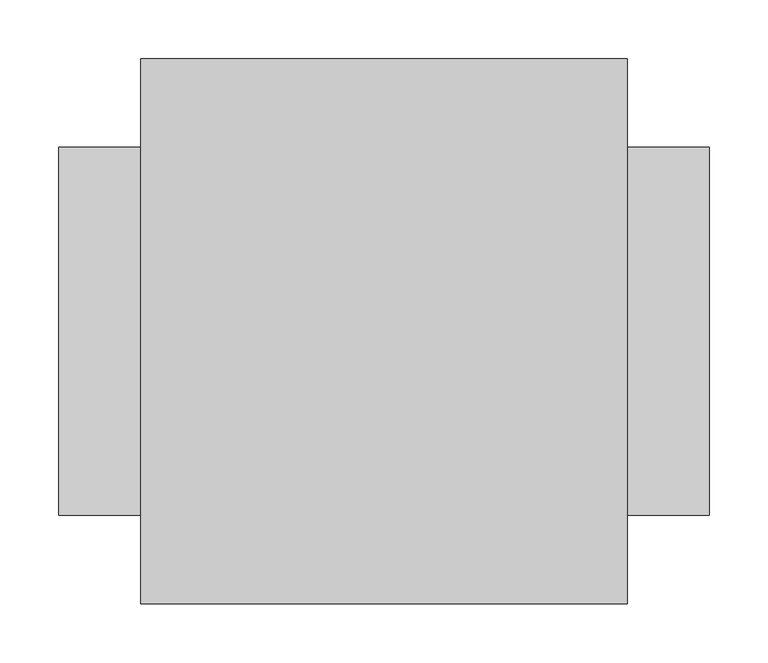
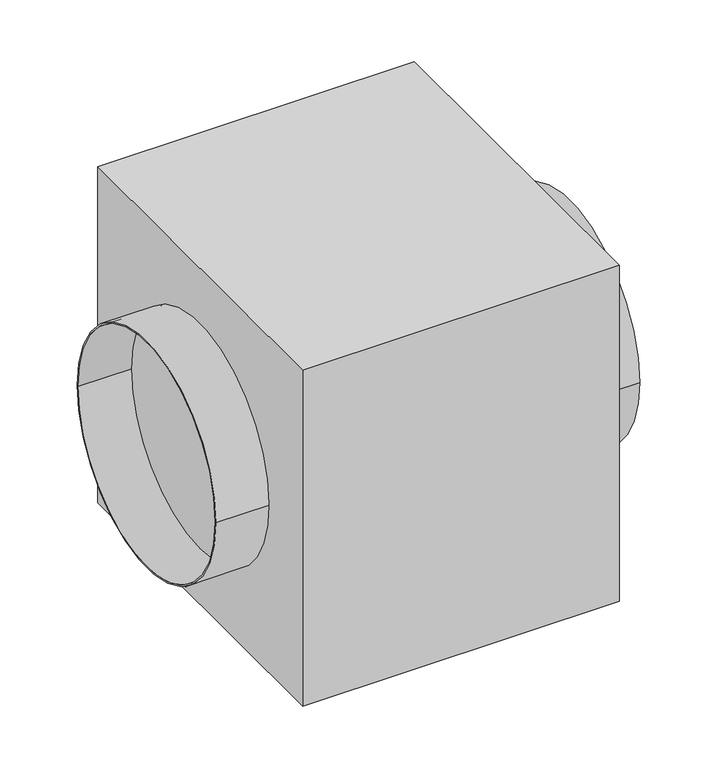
"""IFC4 building model written with IfcOpenShell, lengths in millimetres: proxy geometry, СВ_Вентилятор_КанальныйКруглый_DN100-315_SVK-SVKH : SVKH-315."""

import ifcopenshell
import ifcopenshell.guid

model = None  # the IFC model being written
_history = None  # IfcOwnerHistory: only IFC2X3 demands one
_inside = {}  # id of a spatial element -> (the spatial element, [elements in it])
_under = {}  # id of a project, library or spatial element -> (it, [spatial elements below it])
_declared = {}  # id of a project -> (the project, [libraries it declares])
_typed = {}  # id of a type object -> (the type object, [elements of that type])
_made_of = {}  # id of a material, layer set ... -> (it, [elements and type objects made of it])


def new_model(schema):
    """Start an empty IFC model of exactly this schema.

    Asked for "IFC4X3", IfcOpenShell would pick the latest addendum, in which some entities
    have other attributes; the version numbers below select the first issue.
    IFC2X3 requires an IfcOwnerHistory on every rooted entity: one is made here for all.
    """
    global model, _history
    if schema == "IFC4X3":
        model = ifcopenshell.file(schema_version=(4, 3, 0, 0))
    else:
        model = ifcopenshell.file(schema=schema)
    _inside.clear()
    _under.clear()
    _declared.clear()
    _typed.clear()
    _made_of.clear()
    _history = None
    if model.schema == "IFC2X3":
        org = make("IfcOrganization", Name="unknown")
        user = make(
            "IfcPersonAndOrganization",
            ThePerson=make("IfcPerson", FamilyName="unknown"),
            TheOrganization=org,
        )
        app = make(
            "IfcApplication",
            ApplicationDeveloper=org,
            Version="unknown",
            ApplicationFullName="unknown",
            ApplicationIdentifier="unknown",
        )
        _history = make(
            "IfcOwnerHistory",
            OwningUser=user,
            OwningApplication=app,
            ChangeAction="ADDED",
            CreationDate=0,
        )
    return model


def make(cls, **values):
    """One entity of the class cls with the attributes given. An attribute that is None is left unset."""
    return model.create_entity(
        cls, **{name: value for name, value in values.items() if value is not None}
    )


def rooted(cls, **values):
    """An entity with a GlobalId (a new one), such as an element, a storey or a relation."""
    return make(cls, GlobalId=ifcopenshell.guid.new(), OwnerHistory=_history, **values)


def si_unit(unit_type, name, prefix=None):
    """IfcSIUnit, for example si_unit("LENGTHUNIT", "METRE", prefix="MILLI")."""
    return make("IfcSIUnit", UnitType=unit_type, Prefix=prefix, Name=name)


def assignment(units):
    """IfcUnitAssignment: the units of a project."""
    return None if units is None else make("IfcUnitAssignment", Units=units)


def point(xyz):
    """IfcCartesianPoint."""
    return None if xyz is None else make("IfcCartesianPoint", Coordinates=xyz)


def direction(xyz):
    """IfcDirection."""
    return None if xyz is None else make("IfcDirection", DirectionRatios=xyz)


def frame(location, z_axis=None, x_axis=None):
    """IfcAxis2Placement3D, a coordinate frame: its origin and axes. An axis left out is left unset."""
    return make(
        "IfcAxis2Placement3D",
        Location=point(location),
        Axis=direction(z_axis),
        RefDirection=direction(x_axis),
    )


def frame_2d(location, x_axis=None):
    """IfcAxis2Placement2D, a coordinate frame in the plane: its origin and x axis."""
    return make(
        "IfcAxis2Placement2D", Location=point(location), RefDirection=direction(x_axis)
    )


def origin():
    """The frame at (0, 0, 0) with its axes left unset."""
    return frame((0.0, 0.0, 0.0))


def origin_2d():
    """The frame at (0, 0) in the plane with its x axis left unset."""
    return frame_2d((0.0, 0.0))


def place(relative_to, where):
    """IfcLocalPlacement: puts the frame where relative to a parent placement (None: the world)."""
    return make(
        "IfcLocalPlacement", PlacementRelTo=relative_to, RelativePlacement=where
    )


def context(
    kind, dimensions, precision=None, world=None, true_north=None, identifier=None
):
    """IfcGeometricRepresentationContext, for example the 3D "Model" context."""
    return make(
        "IfcGeometricRepresentationContext",
        ContextIdentifier=identifier,
        ContextType=kind,
        CoordinateSpaceDimension=dimensions,
        Precision=precision,
        WorldCoordinateSystem=world,
        TrueNorth=true_north,
    )


def project(units=None, contexts=None):
    """IfcProject with its units and contexts."""
    return rooted(
        "IfcProject",
        Name="project",
        RepresentationContexts=contexts,
        UnitsInContext=assignment(units),
    )


def spatial(cls, under=None, at=None, **own):
    """A site, building, storey or space (cls), placed at a placement, below another one or the project."""
    s = rooted(cls, ObjectPlacement=at, **own)
    if under is not None:
        _under.setdefault(under.id(), (under, []))[1].append(s)
    return s


def polyline(points):
    """IfcPolyline through the points."""
    return make("IfcPolyline", Points=[point(p) for p in points])


def circle_curve(where, radius):
    """IfcCircle in the frame where."""
    return make("IfcCircle", Position=where, Radius=radius)


def trimmed(basis, trim1, trim2, sense, master):
    """IfcTrimmedCurve: the piece of a basis curve between two trims."""
    return make(
        "IfcTrimmedCurve",
        BasisCurve=basis,
        Trim1=trim1,
        Trim2=trim2,
        SenseAgreement=sense,
        MasterRepresentation=master,
    )


def segment(curve, same_sense, transition):
    """IfcCompositeCurveSegment."""
    return make(
        "IfcCompositeCurveSegment",
        Transition=transition,
        SameSense=same_sense,
        ParentCurve=curve,
    )


def composite_curve(segments, self_intersect=None):
    """IfcCompositeCurve: segments joined end to end."""
    return make("IfcCompositeCurve", Segments=segments, SelfIntersect=self_intersect)


def outline(outer, holes=None, kind="AREA"):
    """IfcArbitraryClosedProfileDef: a profile drawn as a closed curve; with holes, ...WithVoids."""
    if holes is None:
        return make("IfcArbitraryClosedProfileDef", ProfileType=kind, OuterCurve=outer)
    return make(
        "IfcArbitraryProfileDefWithVoids",
        ProfileType=kind,
        OuterCurve=outer,
        InnerCurves=holes,
    )


def extrude(swept, where, along, depth):
    """IfcExtrudedAreaSolid: the profile swept, set in the frame where, extruded along a direction by depth."""
    return make(
        "IfcExtrudedAreaSolid",
        SweptArea=swept,
        Position=where,
        ExtrudedDirection=direction(along),
        Depth=depth,
    )


def shape(context_of_items, identifier, shape_type, items):
    """IfcShapeRepresentation: the items that make up one representation, for example the "Body"."""
    return make(
        "IfcShapeRepresentation",
        ContextOfItems=context_of_items,
        RepresentationIdentifier=identifier,
        RepresentationType=shape_type,
        Items=items,
    )


def source(mapping_origin, context_of_items, identifier, shape_type, items):
    """IfcRepresentationMap: a shape defined once, which mapped items show again and again."""
    return make(
        "IfcRepresentationMap",
        MappingOrigin=mapping_origin,
        MappedRepresentation=shape(context_of_items, identifier, shape_type, items),
    )


def transform(
    local_origin,
    x_axis=None,
    y_axis=None,
    z_axis=None,
    scale=None,
    scale2=None,
    scale3=None,
    uniform=True,
):
    """IfcCartesianTransformationOperator3D, or its non-uniform kind. x_axis, y_axis, z_axis: its Axis1, 2, 3."""
    if uniform:
        return make(
            "IfcCartesianTransformationOperator3D",
            Axis1=direction(x_axis),
            Axis2=direction(y_axis),
            LocalOrigin=point(local_origin),
            Scale=scale,
            Axis3=direction(z_axis),
        )
    return make(
        "IfcCartesianTransformationOperator3DnonUniform",
        Axis1=direction(x_axis),
        Axis2=direction(y_axis),
        LocalOrigin=point(local_origin),
        Scale=scale,
        Axis3=direction(z_axis),
        Scale2=scale2,
        Scale3=scale3,
    )


def mapped(mapping_source, mapping_target):
    """IfcMappedItem: shows the shape of a source again, moved by a transform."""
    return make(
        "IfcMappedItem", MappingSource=mapping_source, MappingTarget=mapping_target
    )


def made_of(thing, what):
    """Note that an element or type object is made of a material, layer set ...; save() writes the relation."""
    if what is not None:
        _made_of.setdefault(what.id(), (what, []))[1].append(thing)
    return thing


def element(
    cls,
    number,
    at=None,
    inside=None,
    cuts=None,
    type_object=None,
    material=None,
    context=None,
    identifier="Body",
    shape_type=None,
    held_by="IfcProductDefinitionShape",
    body=None,
    shapes=None,
    **own,
):
    """One element of the class cls, such as IfcWall. Its Tag is "e" and its number.

    at: its placement. inside: the storey or other place that contains it. cuts: it is an
    opening in that element (IfcRelVoidsElement). A single representation is given by context,
    identifier, shape_type and body (its items); several are given by shapes. held_by: the class
    of the entity that holds the representations. save() writes the other relations.
    """
    e = rooted(cls, Tag="e%d" % number, ObjectPlacement=at, **own)
    if body is not None:
        shapes = [shape(context, identifier, shape_type, body)]
    if shapes is not None:
        e.Representation = make(held_by, Representations=shapes)
    if inside is not None:
        _inside.setdefault(inside.id(), (inside, []))[1].append(e)
    if cuts is not None:
        rooted(
            "IfcRelVoidsElement", RelatingBuildingElement=cuts, RelatedOpeningElement=e
        )
    if type_object is not None:
        _typed.setdefault(type_object.id(), (type_object, []))[1].append(e)
    return made_of(e, material)


def aggregate(whole, parts):
    """IfcRelAggregates: a whole, such as a stair, and the parts it consists of."""
    return rooted("IfcRelAggregates", RelatingObject=whole, RelatedObjects=parts)


def save(model, path):
    """Write the relations noted so far, then the file.

    IfcRelAggregates (storeys below a building ...), IfcRelContainedInSpatialStructure (elements
    in a storey), IfcRelDefinesByType, IfcRelAssociatesMaterial and IfcRelDeclares: one each for
    every whole, place, type object, material and project.
    """
    for whole, parts in _under.values():
        aggregate(whole, parts)
    for where, things in _inside.values():
        rooted(
            "IfcRelContainedInSpatialStructure",
            RelatedElements=things,
            RelatingStructure=where,
        )
    for kind, things in _typed.values():
        rooted("IfcRelDefinesByType", RelatedObjects=things, RelatingType=kind)
    for what, things in _made_of.values():
        rooted("IfcRelAssociatesMaterial", RelatedObjects=things, RelatingMaterial=what)
    for by, libraries in _declared.values():
        rooted("IfcRelDeclares", RelatingContext=by, RelatedDefinitions=libraries)
    model.write(path)


def mechanical_equipment_7df6d9f4(model_context):
    return source(origin(), model_context, "Body", "SweptSolid", [
        extrude(outline(polyline([(207.5, -232.5), (-207.5, -232.5), (-207.5, 232.5), (207.5, 232.5), (207.5, -232.5)])), frame((0.0, 0.0, -232.5), z_axis=(0.0, 0.0, 1.0), x_axis=(1.0, 0.0, 0.0)), (0.0, 0.0, 1.0), 465.0),
        extrude(outline(composite_curve([segment(trimmed(circle_curve(origin_2d(), 157.0), [point((-157.0, 0.0))], [point((157.0, 0.0))], False, "CARTESIAN"), True, "CONTINUOUS"), segment(trimmed(circle_curve(origin_2d(), 157.0), [point((157.0, 0.0))], [point((-157.0, 0.0))], False, "CARTESIAN"), True, "CONTINUOUS")], self_intersect=False), holes=[composite_curve([segment(trimmed(circle_curve(origin_2d(), 155.0), [point((-155.0, 0.0))], [point((155.0, 0.0))], True, "CARTESIAN"), True, "CONTINUOUS"), segment(trimmed(circle_curve(origin_2d(), 155.0), [point((155.0, 0.0))], [point((-155.0, 0.0))], True, "CARTESIAN"), True, "CONTINUOUS")], self_intersect=False)]), frame((-277.5, 0.0, 0.0), z_axis=(1.0, 0.0, 0.0), x_axis=(0.0, 1.0, 0.0)), (0.0, 0.0, 1.0), 70.0),
        extrude(outline(composite_curve([segment(trimmed(circle_curve(origin_2d(), 157.0), [point((-157.0, 0.0))], [point((157.0, 0.0))], False, "CARTESIAN"), True, "CONTINUOUS"), segment(trimmed(circle_curve(origin_2d(), 157.0), [point((157.0, 0.0))], [point((-157.0, 0.0))], False, "CARTESIAN"), True, "CONTINUOUS")], self_intersect=False), holes=[composite_curve([segment(trimmed(circle_curve(origin_2d(), 155.0), [point((-155.0, 0.0))], [point((155.0, 0.0))], True, "CARTESIAN"), True, "CONTINUOUS"), segment(trimmed(circle_curve(origin_2d(), 155.0), [point((155.0, 0.0))], [point((-155.0, 0.0))], True, "CARTESIAN"), True, "CONTINUOUS")], self_intersect=False)]), frame((207.5, 0.0, 0.0), z_axis=(1.0, 0.0, 0.0), x_axis=(0.0, 1.0, 0.0)), (0.0, 0.0, 1.0), 70.0),
    ])


if __name__ == "__main__":
    model = new_model("IFC4")
    model_context = context("Model", 3, world=origin())
    ifc_project = project(units=[si_unit("LENGTHUNIT", "METRE", prefix="MILLI")], contexts=[model_context])
    site = spatial("IfcSite", under=ifc_project)
    building = spatial("IfcBuilding", under=site)
    placement = place(None, origin())
    mechanical_equipment_shape = mechanical_equipment_7df6d9f4(model_context)
    element("IfcBuildingElementProxy", 1, Name="СВ_Вентилятор_КанальныйКруглый_DN100-315_SVK-SVKH : SVKH-315", ObjectType="СВ_Вентилятор_КанальныйКруглый_DN100-315_SVK-SVKH : SVKH-315", at=placement, inside=building, context=model_context, shape_type="MappedRepresentation", body=[
        mapped(mechanical_equipment_shape, transform((0.0, 0.0, 0.0), x_axis=(1.0, 0.0, 0.0), y_axis=(0.0, 1.0, 0.0), z_axis=(0.0, 0.0, 1.0))),
    ])
    save(model, "model.ifc")
